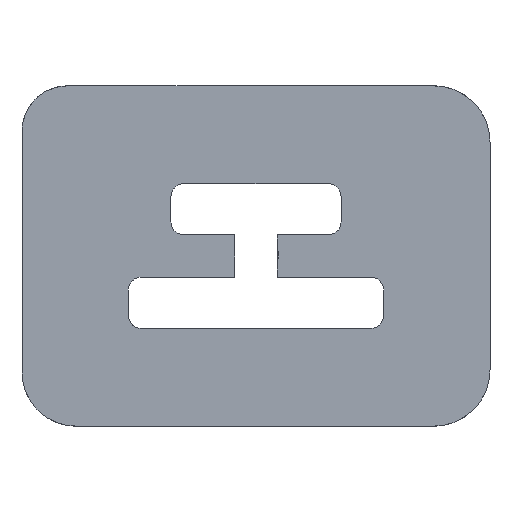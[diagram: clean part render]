
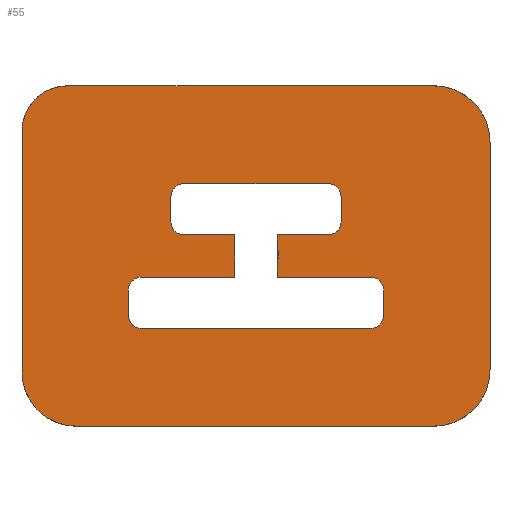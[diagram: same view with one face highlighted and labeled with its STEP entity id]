
A CAD part, front view. The second image highlights one B-rep face of the part: STEP entity #55.
In plain terms, the highlighted planar face has unit normal (0, -1, 0).
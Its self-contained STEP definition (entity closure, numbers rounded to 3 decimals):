
#55=ADVANCED_FACE('',(#372,#374),#376,.F.);
#372=FACE_BOUND('',#373,.T.);
#373=EDGE_LOOP('',(#5533,#5534,#5535,#5536,#5537,#5538,#5539,#5540));
#374=FACE_BOUND('',#375,.T.);
#375=EDGE_LOOP('',(#5541,#5542,#5543,#5544,#5545,#5546,#5547,#5548,#5549,#5550,#5551,
#5552,#5553,#5554,#5555,#5556,#5557,#5558,#5559,#5560,#5561,#5562));
#376=PLANE('',#377);
#377=AXIS2_PLACEMENT_3D('',#378,#379,#380);
#378=CARTESIAN_POINT('',(41.75,35.,-40.25));
#379=DIRECTION('',(0.,1.,0.));
#380=DIRECTION('',(-1.,0.,0.));
#5533=ORIENTED_EDGE('',*,*,#7400,.F.);
#5534=ORIENTED_EDGE('',*,*,#7401,.F.);
#5535=ORIENTED_EDGE('',*,*,#7402,.F.);
#5536=ORIENTED_EDGE('',*,*,#7403,.F.);
#5537=ORIENTED_EDGE('',*,*,#7404,.F.);
#5538=ORIENTED_EDGE('',*,*,#7405,.F.);
#5539=ORIENTED_EDGE('',*,*,#7406,.F.);
#5540=ORIENTED_EDGE('',*,*,#7407,.F.);
#5541=ORIENTED_EDGE('',*,*,#7393,.T.);
#5542=ORIENTED_EDGE('',*,*,#7399,.T.);
#5543=ORIENTED_EDGE('',*,*,#7408,.T.);
#5544=ORIENTED_EDGE('',*,*,#7409,.T.);
#5545=ORIENTED_EDGE('',*,*,#7410,.T.);
#5546=ORIENTED_EDGE('',*,*,#7411,.T.);
#5547=ORIENTED_EDGE('',*,*,#7412,.T.);
#5548=ORIENTED_EDGE('',*,*,#7413,.T.);
#5549=ORIENTED_EDGE('',*,*,#7414,.T.);
#5550=ORIENTED_EDGE('',*,*,#7415,.T.);
#5551=ORIENTED_EDGE('',*,*,#7416,.T.);
#5552=ORIENTED_EDGE('',*,*,#7417,.T.);
#5553=ORIENTED_EDGE('',*,*,#7418,.T.);
#5554=ORIENTED_EDGE('',*,*,#7419,.T.);
#5555=ORIENTED_EDGE('',*,*,#7420,.T.);
#5556=ORIENTED_EDGE('',*,*,#7421,.T.);
#5557=ORIENTED_EDGE('',*,*,#7422,.T.);
#5558=ORIENTED_EDGE('',*,*,#7423,.T.);
#5559=ORIENTED_EDGE('',*,*,#7424,.T.);
#5560=ORIENTED_EDGE('',*,*,#7425,.T.);
#5561=ORIENTED_EDGE('',*,*,#7426,.T.);
#5562=ORIENTED_EDGE('',*,*,#7427,.T.);
#7393=EDGE_CURVE('',#8185,#8186,#8193,.F.);
#7399=EDGE_CURVE('',#8186,#8200,#8202,.T.);
#7400=EDGE_CURVE('',#8203,#8204,#8205,.T.);
#7401=EDGE_CURVE('',#8206,#8203,#8207,.T.);
#7402=EDGE_CURVE('',#8208,#8206,#8209,.T.);
#7403=EDGE_CURVE('',#8210,#8208,#8211,.T.);
#7404=EDGE_CURVE('',#8212,#8210,#8213,.T.);
#7405=EDGE_CURVE('',#8214,#8212,#8215,.T.);
#7406=EDGE_CURVE('',#8216,#8214,#8217,.T.);
#7407=EDGE_CURVE('',#8204,#8216,#8218,.T.);
#7408=EDGE_CURVE('',#8200,#8219,#8220,.T.);
#7409=EDGE_CURVE('',#8219,#8221,#8222,.T.);
#7410=EDGE_CURVE('',#8221,#8223,#8224,.T.);
#7411=EDGE_CURVE('',#8223,#8225,#8226,.T.);
#7412=EDGE_CURVE('',#8225,#8227,#8228,.T.);
#7413=EDGE_CURVE('',#8227,#8229,#8230,.T.);
#7414=EDGE_CURVE('',#8229,#8231,#8232,.T.);
#7415=EDGE_CURVE('',#8231,#8233,#8234,.T.);
#7416=EDGE_CURVE('',#8233,#8235,#8236,.T.);
#7417=EDGE_CURVE('',#8235,#8237,#8238,.T.);
#7418=EDGE_CURVE('',#8237,#8239,#8240,.T.);
#7419=EDGE_CURVE('',#8239,#8241,#8242,.T.);
#7420=EDGE_CURVE('',#8241,#8243,#8244,.T.);
#7421=EDGE_CURVE('',#8243,#8245,#8246,.T.);
#7422=EDGE_CURVE('',#8245,#8247,#8248,.T.);
#7423=EDGE_CURVE('',#8247,#8249,#8250,.T.);
#7424=EDGE_CURVE('',#8249,#8251,#8252,.T.);
#7425=EDGE_CURVE('',#8251,#8253,#8254,.T.);
#7426=EDGE_CURVE('',#8253,#8255,#8256,.T.);
#7427=EDGE_CURVE('',#8255,#8185,#8257,.T.);
#8185=VERTEX_POINT('',#9506);
#8186=VERTEX_POINT('',#9507);
#8193=CIRCLE('',#9617,5.);
#8200=VERTEX_POINT('',#9689);
#8202=LINE('',#9693,#9694);
#8203=VERTEX_POINT('',#9696);
#8204=VERTEX_POINT('',#9697);
#8205=LINE('',#9698,#9699);
#8206=VERTEX_POINT('',#9701);
#8207=CIRCLE('',#9702,13.25);
#8208=VERTEX_POINT('',#9706);
#8209=LINE('',#9707,#9708);
#8210=VERTEX_POINT('',#9710);
#8211=CIRCLE('',#9711,13.25);
#8212=VERTEX_POINT('',#9715);
#8213=LINE('',#9716,#9717);
#8214=VERTEX_POINT('',#9719);
#8215=CIRCLE('',#9720,10.75);
#8216=VERTEX_POINT('',#9724);
#8217=LINE('',#9725,#9726);
#8218=CIRCLE('',#9728,12.75);
#8219=VERTEX_POINT('',#9732);
#8220=LINE('',#9733,#9734);
#8221=VERTEX_POINT('',#9736);
#8222=CIRCLE('',#9737,3.);
#8223=VERTEX_POINT('',#9741);
#8224=LINE('',#9742,#9743);
#8225=VERTEX_POINT('',#9745);
#8226=CIRCLE('',#9746,3.);
#8227=VERTEX_POINT('',#9750);
#8228=LINE('',#9751,#9752);
#8229=VERTEX_POINT('',#9754);
#8230=CIRCLE('',#9755,3.);
#8231=VERTEX_POINT('',#9759);
#8232=LINE('',#9760,#9761);
#8233=VERTEX_POINT('',#9763);
#8234=CIRCLE('',#9764,3.);
#8235=VERTEX_POINT('',#9768);
#8236=LINE('',#9769,#9770);
#8237=VERTEX_POINT('',#9772);
#8238=LINE('',#9773,#9774);
#8239=VERTEX_POINT('',#9776);
#8240=LINE('',#9777,#9778);
#8241=VERTEX_POINT('',#9780);
#8242=CIRCLE('',#9781,3.);
#8243=VERTEX_POINT('',#9785);
#8244=LINE('',#9786,#9787);
#8245=VERTEX_POINT('',#9789);
#8246=CIRCLE('',#9790,3.);
#8247=VERTEX_POINT('',#9794);
#8248=LINE('',#9795,#9796);
#8249=VERTEX_POINT('',#9798);
#8250=CIRCLE('',#9799,3.);
#8251=VERTEX_POINT('',#9803);
#8252=LINE('',#9804,#9805);
#8253=VERTEX_POINT('',#9807);
#8254=CIRCLE('',#9808,3.);
#8255=VERTEX_POINT('',#9812);
#8256=LINE('',#9813,#9814);
#8257=LINE('',#9816,#9817);
#9506=CARTESIAN_POINT('',(5.,35.,1.736));
#9507=CARTESIAN_POINT('',(5.,35.,-1.592));
#9617=AXIS2_PLACEMENT_3D('',#9618,#9619,#9620);
#9618=CARTESIAN_POINT('',(0.285,35.,0.072));
#9619=DIRECTION('',(0.,-1.,0.));
#9620=DIRECTION('',(0.943,0.,-0.333));
#9689=CARTESIAN_POINT('',(5.,35.,-5.25));
#9693=CARTESIAN_POINT('',(5.,35.,-1.592));
#9694=VECTOR('',#9695,1.);
#9695=DIRECTION('',(0.,0.,-1.));
#9696=CARTESIAN_POINT('',(41.75,35.,-40.25));
#9697=CARTESIAN_POINT('',(-42.25,35.,-40.25));
#9698=CARTESIAN_POINT('',(41.75,35.,-40.25));
#9699=VECTOR('',#9700,1.);
#9700=DIRECTION('',(-1.,0.,0.));
#9701=CARTESIAN_POINT('',(55.,35.,-27.));
#9702=AXIS2_PLACEMENT_3D('',#9703,#9704,#9705);
#9703=CARTESIAN_POINT('',(41.75,35.,-27.));
#9704=DIRECTION('',(0.,1.,0.));
#9705=DIRECTION('',(1.,0.,0.));
#9706=CARTESIAN_POINT('',(55.,35.,26.5));
#9707=CARTESIAN_POINT('',(55.,35.,26.5));
#9708=VECTOR('',#9709,1.);
#9709=DIRECTION('',(0.,0.,-1.));
#9710=CARTESIAN_POINT('',(41.75,35.,39.75));
#9711=AXIS2_PLACEMENT_3D('',#9712,#9713,#9714);
#9712=CARTESIAN_POINT('',(41.75,35.,26.5));
#9713=DIRECTION('',(0.,1.,0.));
#9714=DIRECTION('',(0.,0.,1.));
#9715=CARTESIAN_POINT('',(-44.25,35.,39.75));
#9716=CARTESIAN_POINT('',(-44.25,35.,39.75));
#9717=VECTOR('',#9718,1.);
#9718=DIRECTION('',(1.,0.,0.));
#9719=CARTESIAN_POINT('',(-55.,35.,29.));
#9720=AXIS2_PLACEMENT_3D('',#9721,#9722,#9723);
#9721=CARTESIAN_POINT('',(-44.25,35.,29.));
#9722=DIRECTION('',(0.,1.,0.));
#9723=DIRECTION('',(-1.,0.,0.));
#9724=CARTESIAN_POINT('',(-55.,35.,-27.5));
#9725=CARTESIAN_POINT('',(-55.,35.,-27.5));
#9726=VECTOR('',#9727,1.);
#9727=DIRECTION('',(0.,0.,1.));
#9728=AXIS2_PLACEMENT_3D('',#9729,#9730,#9731);
#9729=CARTESIAN_POINT('',(-42.25,35.,-27.5));
#9730=DIRECTION('',(0.,1.,0.));
#9731=DIRECTION('',(0.,0.,-1.));
#9732=CARTESIAN_POINT('',(27.,35.,-5.25));
#9733=CARTESIAN_POINT('',(5.,35.,-5.25));
#9734=VECTOR('',#9735,1.);
#9735=DIRECTION('',(1.,0.,0.));
#9736=CARTESIAN_POINT('',(30.,35.,-8.25));
#9737=AXIS2_PLACEMENT_3D('',#9738,#9739,#9740);
#9738=CARTESIAN_POINT('',(27.,35.,-8.25));
#9739=DIRECTION('',(0.,1.,0.));
#9740=DIRECTION('',(0.,0.,1.));
#9741=CARTESIAN_POINT('',(30.,35.,-14.25));
#9742=CARTESIAN_POINT('',(30.,35.,-8.25));
#9743=VECTOR('',#9744,1.);
#9744=DIRECTION('',(0.,0.,-1.));
#9745=CARTESIAN_POINT('',(27.,35.,-17.25));
#9746=AXIS2_PLACEMENT_3D('',#9747,#9748,#9749);
#9747=CARTESIAN_POINT('',(27.,35.,-14.25));
#9748=DIRECTION('',(0.,1.,0.));
#9749=DIRECTION('',(1.,0.,0.));
#9750=CARTESIAN_POINT('',(-27.,35.,-17.25));
#9751=CARTESIAN_POINT('',(27.,35.,-17.25));
#9752=VECTOR('',#9753,1.);
#9753=DIRECTION('',(-1.,0.,0.));
#9754=CARTESIAN_POINT('',(-30.,35.,-14.25));
#9755=AXIS2_PLACEMENT_3D('',#9756,#9757,#9758);
#9756=CARTESIAN_POINT('',(-27.,35.,-14.25));
#9757=DIRECTION('',(0.,1.,0.));
#9758=DIRECTION('',(0.,0.,-1.));
#9759=CARTESIAN_POINT('',(-30.,35.,-8.25));
#9760=CARTESIAN_POINT('',(-30.,35.,-14.25));
#9761=VECTOR('',#9762,1.);
#9762=DIRECTION('',(0.,0.,1.));
#9763=CARTESIAN_POINT('',(-27.,35.,-5.25));
#9764=AXIS2_PLACEMENT_3D('',#9765,#9766,#9767);
#9765=CARTESIAN_POINT('',(-27.,35.,-8.25));
#9766=DIRECTION('',(0.,1.,0.));
#9767=DIRECTION('',(-1.,0.,0.));
#9768=CARTESIAN_POINT('',(-5.,35.,-5.25));
#9769=CARTESIAN_POINT('',(-27.,35.,-5.25));
#9770=VECTOR('',#9771,1.);
#9771=DIRECTION('',(1.,0.,0.));
#9772=CARTESIAN_POINT('',(-5.,35.,4.75));
#9773=CARTESIAN_POINT('',(-5.,35.,-5.25));
#9774=VECTOR('',#9775,1.);
#9775=DIRECTION('',(0.,0.,1.));
#9776=CARTESIAN_POINT('',(-17.,35.,4.75));
#9777=CARTESIAN_POINT('',(-5.,35.,4.75));
#9778=VECTOR('',#9779,1.);
#9779=DIRECTION('',(-1.,0.,0.));
#9780=CARTESIAN_POINT('',(-20.,35.,7.75));
#9781=AXIS2_PLACEMENT_3D('',#9782,#9783,#9784);
#9782=CARTESIAN_POINT('',(-17.,35.,7.75));
#9783=DIRECTION('',(0.,1.,0.));
#9784=DIRECTION('',(0.,0.,-1.));
#9785=CARTESIAN_POINT('',(-20.,35.,13.75));
#9786=CARTESIAN_POINT('',(-20.,35.,7.75));
#9787=VECTOR('',#9788,1.);
#9788=DIRECTION('',(0.,0.,1.));
#9789=CARTESIAN_POINT('',(-17.,35.,16.75));
#9790=AXIS2_PLACEMENT_3D('',#9791,#9792,#9793);
#9791=CARTESIAN_POINT('',(-17.,35.,13.75));
#9792=DIRECTION('',(0.,1.,0.));
#9793=DIRECTION('',(-1.,0.,0.));
#9794=CARTESIAN_POINT('',(17.,35.,16.75));
#9795=CARTESIAN_POINT('',(-17.,35.,16.75));
#9796=VECTOR('',#9797,1.);
#9797=DIRECTION('',(1.,0.,0.));
#9798=CARTESIAN_POINT('',(20.,35.,13.75));
#9799=AXIS2_PLACEMENT_3D('',#9800,#9801,#9802);
#9800=CARTESIAN_POINT('',(17.,35.,13.75));
#9801=DIRECTION('',(0.,1.,0.));
#9802=DIRECTION('',(0.,0.,1.));
#9803=CARTESIAN_POINT('',(20.,35.,7.75));
#9804=CARTESIAN_POINT('',(20.,35.,13.75));
#9805=VECTOR('',#9806,1.);
#9806=DIRECTION('',(0.,0.,-1.));
#9807=CARTESIAN_POINT('',(17.,35.,4.75));
#9808=AXIS2_PLACEMENT_3D('',#9809,#9810,#9811);
#9809=CARTESIAN_POINT('',(17.,35.,7.75));
#9810=DIRECTION('',(0.,1.,0.));
#9811=DIRECTION('',(1.,0.,0.));
#9812=CARTESIAN_POINT('',(5.,35.,4.75));
#9813=CARTESIAN_POINT('',(17.,35.,4.75));
#9814=VECTOR('',#9815,1.);
#9815=DIRECTION('',(-1.,0.,0.));
#9816=CARTESIAN_POINT('',(5.,35.,4.75));
#9817=VECTOR('',#9818,1.);
#9818=DIRECTION('',(0.,0.,-1.));
